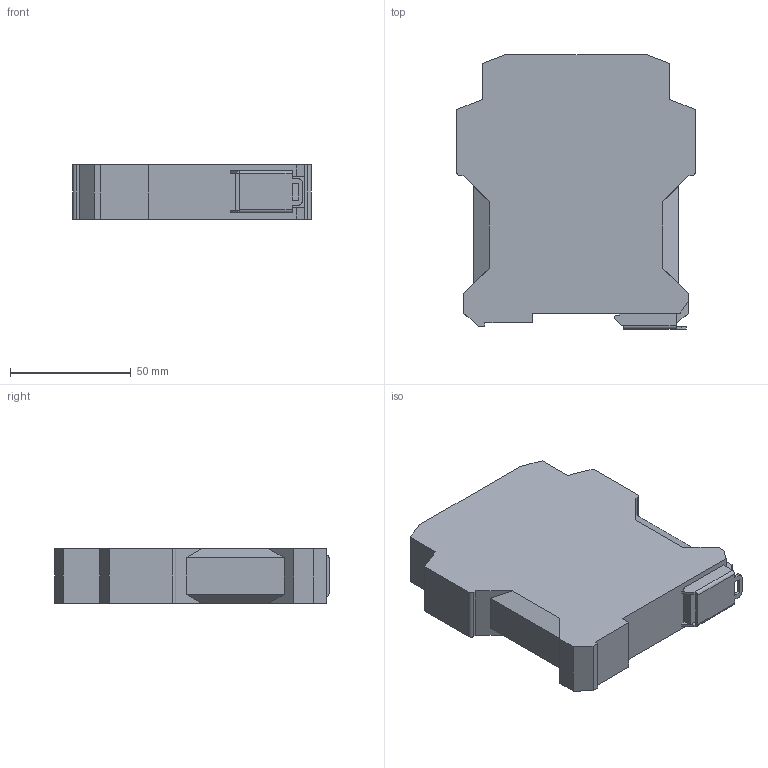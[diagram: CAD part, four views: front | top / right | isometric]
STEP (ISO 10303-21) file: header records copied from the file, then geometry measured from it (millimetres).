
FILE_DESCRIPTION (( 'STEP AP214' ), '1' );
FILE_NAME ('ZF_STEP_CS_fA_mM-X.step', '2021-02-15T12:59:04', ( '' ), ( '' ), 'SwSTEP 2.0', 'SolidWorks 2014', '' );
FILE_SCHEMA (( 'AUTOMOTIVE_DESIGN' ));
Length unit declared in the file: millimetre
Products named in the file (3): DIN; ZF_STEP_CS_fA_mM-X; CS_morsetti_M_22,5
Assembly tree (2 placements, depth 2):
  ZF_STEP_CS_fA_mM-X
    CS_morsetti_M_22,5
    DIN
Bounding box: 99 x 113.7 x 22.6 mm (x, y, z)
Volume: 216263.5 mm3; surface area: 29864.5 mm2
Topology: 2 solids, 2 shells, 78 faces, 220 edges, 146 vertices
Faces by surface type: plane 72, cylinder 6
Entity records: 2627 total; most frequent: CARTESIAN_POINT 449, ORIENTED_EDGE 440, DIRECTION 398, EDGE_CURVE 220, LINE 208, VECTOR 208, VERTEX_POINT 146, AXIS2_PLACEMENT_3D 95
